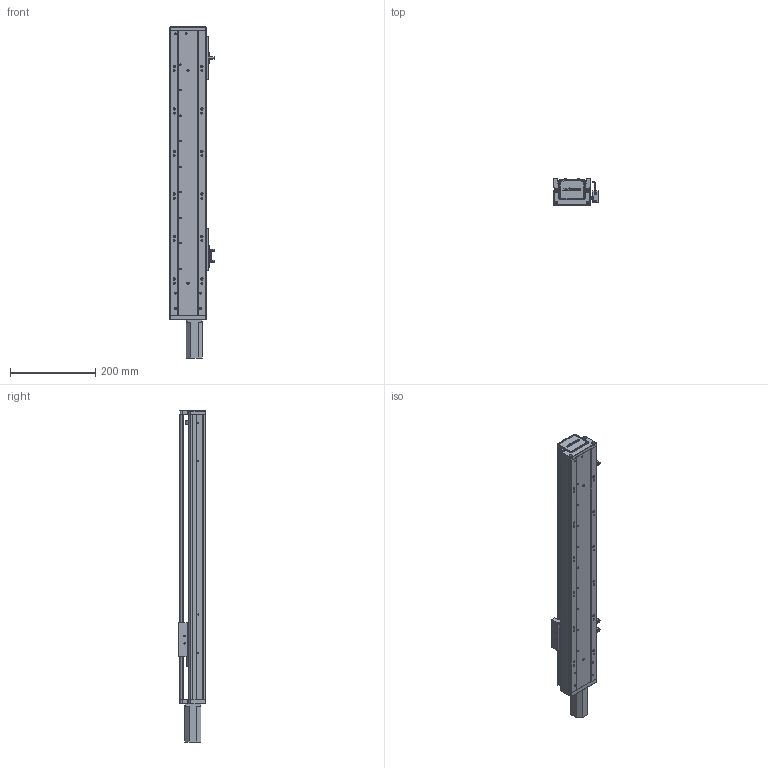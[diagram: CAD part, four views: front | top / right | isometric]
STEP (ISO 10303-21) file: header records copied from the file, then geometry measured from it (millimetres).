
FILE_DESCRIPTION (( 'STEP AP203' ), '1' );
FILE_NAME ('RY80-L1620-300-MK(100W).SLDASM_450.step', '2021-02-20T02:19:40', ( '' ), ( '' ), 'SwSTEP 2.0', 'SolidWorks 2012', '' );
FILE_SCHEMA (( 'CONFIG_CONTROL_DESIGN' ));
Products named in the file (12): RY80-L1620-300-MK(100W).SLDASM_450; 侂狟100W; 覜茼ん672; RY80俋离覜茼え; 滅袉蝶18-24; 672嫖萇羲壽假蚾釱; RY80前盖板(100W电机)M3; RY80綴裔啣; 滅袉蝶18-10; RY80-300-MK倰第菁釱_450; RY80臏賑輸; RY80-300-MK倰第奻裔啣_450
Assembly tree (14 placements, depth 2):
  RY80-L1620-300-MK(100W).SLDASM_450
    RY80-300-MK倰第菁釱_450
    RY80臏賑輸
    RY80-300-MK倰第奻裔啣_450
    RY80前盖板(100W电机)M3
    RY80綴裔啣
    滅袉蝶18-10
    672嫖萇羲壽假蚾釱  x2
    覜茼ん672  x3
    RY80俋离覜茼え
    滅袉蝶18-24
    侂狟100W
Bounding box: 103.7 x 65 x 781 mm (x, y, z)
Volume: 1193443.8 mm3; surface area: 492153.1 mm2
Topology: 14 solids, 14 shells, 1551 faces, 4339 edges, 2833 vertices
Faces by surface type: plane 900, cylinder 545, cone 72, bspline 34
Entity records: 48252 total; most frequent: CARTESIAN_POINT 12619, ORIENTED_EDGE 7446, DIRECTION 6668, EDGE_CURVE 3723, VERTEX_POINT 2449, LINE 2328, VECTOR 2328, AXIS2_PLACEMENT_3D 2170
